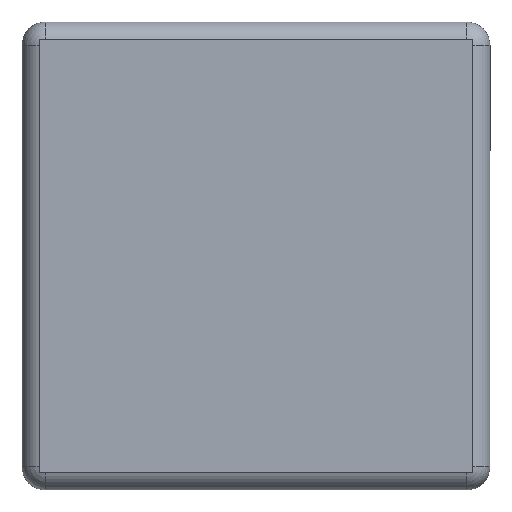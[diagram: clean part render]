
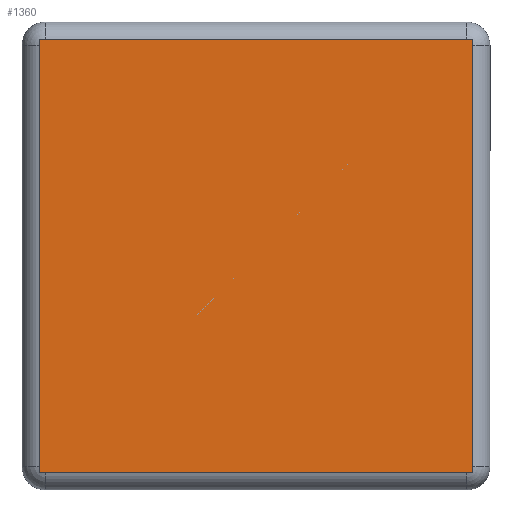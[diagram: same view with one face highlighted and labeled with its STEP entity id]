
A CAD part, front view. The second image highlights one B-rep face of the part: STEP entity #1360.
In plain terms, the highlighted planar face has unit normal (0, -1, 0).
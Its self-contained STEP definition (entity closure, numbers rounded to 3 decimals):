
#17 = CARTESIAN_POINT ( 'NONE',  ( -67.676, -3., 23.745 ) ) ;
#24 = EDGE_CURVE ( 'NONE', #183, #764, #92, .T. ) ;
#78 = DIRECTION ( 'NONE',  ( 0., 0., 1. ) ) ;
#92 = LINE ( 'NONE', #971, #1382 ) ;
#104 = DIRECTION ( 'NONE',  ( 1., 0., 0. ) ) ;
#183 = VERTEX_POINT ( 'NONE', #1603 ) ;
#225 = VECTOR ( 'NONE', #78, 1000. ) ;
#246 = VECTOR ( 'NONE', #1018, 1000. ) ;
#339 = EDGE_CURVE ( 'NONE', #764, #1463, #1545, .T. ) ;
#351 = VERTEX_POINT ( 'NONE', #17 ) ;
#534 = CARTESIAN_POINT ( 'NONE',  ( -67.676, -3., 0. ) ) ;
#536 = FACE_OUTER_BOUND ( 'NONE', #551, .T. ) ;
#544 = DIRECTION ( 'NONE',  ( 0., 0., 1. ) ) ;
#551 = EDGE_LOOP ( 'NONE', ( #1352, #905, #1503, #1525 ) ) ;
#579 = LINE ( 'NONE', #534, #246 ) ;
#649 = PLANE ( 'NONE',  #800 ) ;
#759 = VECTOR ( 'NONE', #799, 1000. ) ;
#764 = VERTEX_POINT ( 'NONE', #1457 ) ;
#799 = DIRECTION ( 'NONE',  ( 1., 0., 0. ) ) ;
#800 = AXIS2_PLACEMENT_3D ( 'NONE', #1532, #1280, #544 ) ;
#824 = CARTESIAN_POINT ( 'NONE',  ( -30.676, -3., 0. ) ) ;
#833 = EDGE_CURVE ( 'NONE', #351, #1463, #1471, .T. ) ;
#905 = ORIENTED_EDGE ( 'NONE', *, *, #833, .F. ) ;
#971 = CARTESIAN_POINT ( 'NONE',  ( 0., -3., -13.255 ) ) ;
#1018 = DIRECTION ( 'NONE',  ( 0., 0., 1. ) ) ;
#1183 = CARTESIAN_POINT ( 'NONE',  ( 0., -3., 23.745 ) ) ;
#1280 = DIRECTION ( 'NONE',  ( 0., 1., 0. ) ) ;
#1318 = CARTESIAN_POINT ( 'NONE',  ( -30.676, -3., 23.745 ) ) ;
#1338 = EDGE_CURVE ( 'NONE', #183, #351, #579, .T. ) ;
#1352 = ORIENTED_EDGE ( 'NONE', *, *, #339, .T. ) ;
#1360 = ADVANCED_FACE ( 'NONE', ( #536 ), #649, .F. ) ;
#1382 = VECTOR ( 'NONE', #104, 1000. ) ;
#1457 = CARTESIAN_POINT ( 'NONE',  ( -30.676, -3., -13.255 ) ) ;
#1463 = VERTEX_POINT ( 'NONE', #1318 ) ;
#1471 = LINE ( 'NONE', #1183, #759 ) ;
#1503 = ORIENTED_EDGE ( 'NONE', *, *, #1338, .F. ) ;
#1525 = ORIENTED_EDGE ( 'NONE', *, *, #24, .T. ) ;
#1532 = CARTESIAN_POINT ( 'NONE',  ( 0., -3., 0. ) ) ;
#1545 = LINE ( 'NONE', #824, #225 ) ;
#1603 = CARTESIAN_POINT ( 'NONE',  ( -67.676, -3., -13.255 ) ) ;
